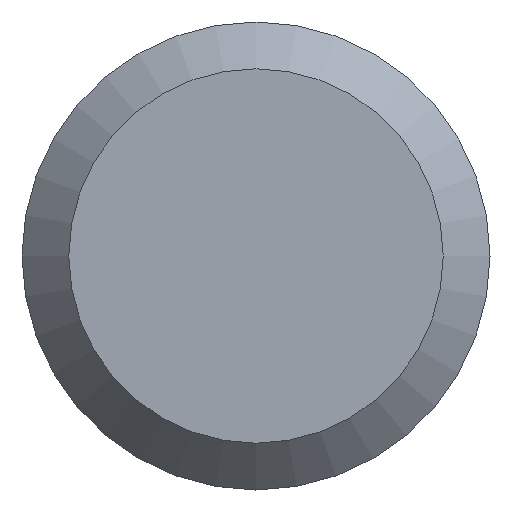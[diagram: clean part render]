
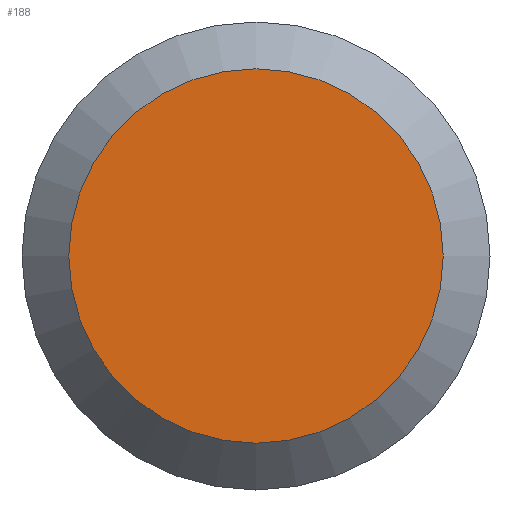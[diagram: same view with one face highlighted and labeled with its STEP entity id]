
A CAD part, left-side view. The second image highlights one B-rep face of the part: STEP entity #188.
In plain terms, the highlighted planar face has unit normal (-1, 0, 0).
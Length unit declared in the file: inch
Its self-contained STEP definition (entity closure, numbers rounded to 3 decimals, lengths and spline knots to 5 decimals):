
#11 = EDGE_CURVE ( 'NONE', #17, #17, #140, .T. ) ;
#15 = PLANE ( 'NONE',  #245 ) ;
#17 = VERTEX_POINT ( 'NONE', #179 ) ;
#47 = EDGE_LOOP ( 'NONE', ( #71 ) ) ;
#66 = FACE_OUTER_BOUND ( 'NONE', #47, .T. ) ;
#71 = ORIENTED_EDGE ( 'NONE', *, *, #11, .T. ) ;
#140 = CIRCLE ( 'NONE', #247, 0.0644 ) ;
#165 = DIRECTION ( 'NONE',  ( 1., 0., 0. ) ) ;
#171 = DIRECTION ( 'NONE',  ( 0., 0., -1. ) ) ;
#179 = CARTESIAN_POINT ( 'NONE',  ( 0., 0., -0.0644 ) ) ;
#187 = DIRECTION ( 'NONE',  ( -1., 0., 0. ) ) ;
#188 = ADVANCED_FACE ( 'NONE', ( #66 ), #15, .F. ) ;
#192 = CARTESIAN_POINT ( 'NONE',  ( 0., 0., 0. ) ) ;
#204 = CARTESIAN_POINT ( 'NONE',  ( 0., 0.0805, 0. ) ) ;
#238 = DIRECTION ( 'NONE',  ( 0., 0., -1. ) ) ;
#245 = AXIS2_PLACEMENT_3D ( 'NONE', #204, #165, #171 ) ;
#247 = AXIS2_PLACEMENT_3D ( 'NONE', #192, #187, #238 ) ;
